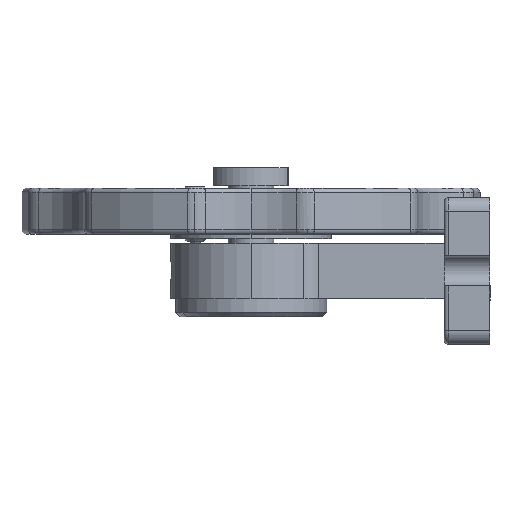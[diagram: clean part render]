
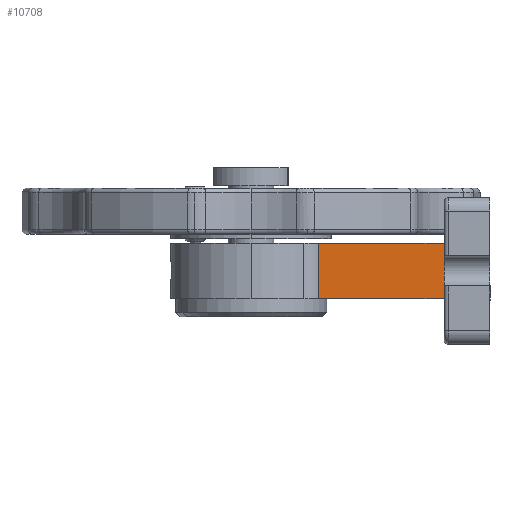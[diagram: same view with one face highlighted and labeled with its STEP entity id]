
A CAD part, left-side view. The second image highlights one B-rep face of the part: STEP entity #10708.
In plain terms, the highlighted planar face has unit normal (-1, 0, 0).
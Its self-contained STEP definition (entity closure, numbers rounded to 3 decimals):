
#50 = CARTESIAN_POINT ( 'NONE',  ( -12., -42., 6. ) ) ;
#160 = VERTEX_POINT ( 'NONE', #13877 ) ;
#617 = ORIENTED_EDGE ( 'NONE', *, *, #15443, .T. ) ;
#630 = CARTESIAN_POINT ( 'NONE',  ( -12., -42., -6. ) ) ;
#917 = LINE ( 'NONE', #1026, #10820 ) ;
#1026 = CARTESIAN_POINT ( 'NONE',  ( -12., -42., 6. ) ) ;
#2045 = DIRECTION ( 'NONE',  ( 0., -1., 0. ) ) ;
#2453 = VERTEX_POINT ( 'NONE', #5681 ) ;
#2727 = FACE_OUTER_BOUND ( 'NONE', #13214, .T. ) ;
#3457 = ORIENTED_EDGE ( 'NONE', *, *, #17013, .F. ) ;
#4097 = LINE ( 'NONE', #630, #16757 ) ;
#4239 = VECTOR ( 'NONE', #2045, 1000. ) ;
#5074 = DIRECTION ( 'NONE',  ( 0., 0., -1. ) ) ;
#5284 = VERTEX_POINT ( 'NONE', #10762 ) ;
#5681 = CARTESIAN_POINT ( 'NONE',  ( -12., -14.739, -6. ) ) ;
#5981 = CARTESIAN_POINT ( 'NONE',  ( -12., -42., 6. ) ) ;
#6160 = DIRECTION ( 'NONE',  ( 0., -1., 0. ) ) ;
#6608 = LINE ( 'NONE', #12273, #7454 ) ;
#7454 = VECTOR ( 'NONE', #8154, 1000. ) ;
#8154 = DIRECTION ( 'NONE',  ( 0., 0., -1. ) ) ;
#8283 = EDGE_CURVE ( 'NONE', #5284, #2453, #6608, .T. ) ;
#9119 = DIRECTION ( 'NONE',  ( 1., 0., 0. ) ) ;
#9168 = ORIENTED_EDGE ( 'NONE', *, *, #8283, .T. ) ;
#9249 = DIRECTION ( 'NONE',  ( 0., 1., 0. ) ) ;
#9533 = EDGE_CURVE ( 'NONE', #5284, #17227, #12474, .T. ) ;
#10708 = ADVANCED_FACE ( 'NONE', ( #2727 ), #14488, .F. ) ;
#10762 = CARTESIAN_POINT ( 'NONE',  ( -12., -14.739, 6. ) ) ;
#10820 = VECTOR ( 'NONE', #5074, 1000. ) ;
#12273 = CARTESIAN_POINT ( 'NONE',  ( -12., -14.739, -6. ) ) ;
#12474 = LINE ( 'NONE', #5981, #4239 ) ;
#12824 = AXIS2_PLACEMENT_3D ( 'NONE', #17322, #9119, #9249 ) ;
#13214 = EDGE_LOOP ( 'NONE', ( #15994, #9168, #617, #3457 ) ) ;
#13877 = CARTESIAN_POINT ( 'NONE',  ( -12., -42., -6. ) ) ;
#14488 = PLANE ( 'NONE',  #12824 ) ;
#15443 = EDGE_CURVE ( 'NONE', #2453, #160, #4097, .T. ) ;
#15994 = ORIENTED_EDGE ( 'NONE', *, *, #9533, .F. ) ;
#16757 = VECTOR ( 'NONE', #6160, 1000. ) ;
#17013 = EDGE_CURVE ( 'NONE', #17227, #160, #917, .T. ) ;
#17227 = VERTEX_POINT ( 'NONE', #50 ) ;
#17322 = CARTESIAN_POINT ( 'NONE',  ( -12., -42., 6. ) ) ;
